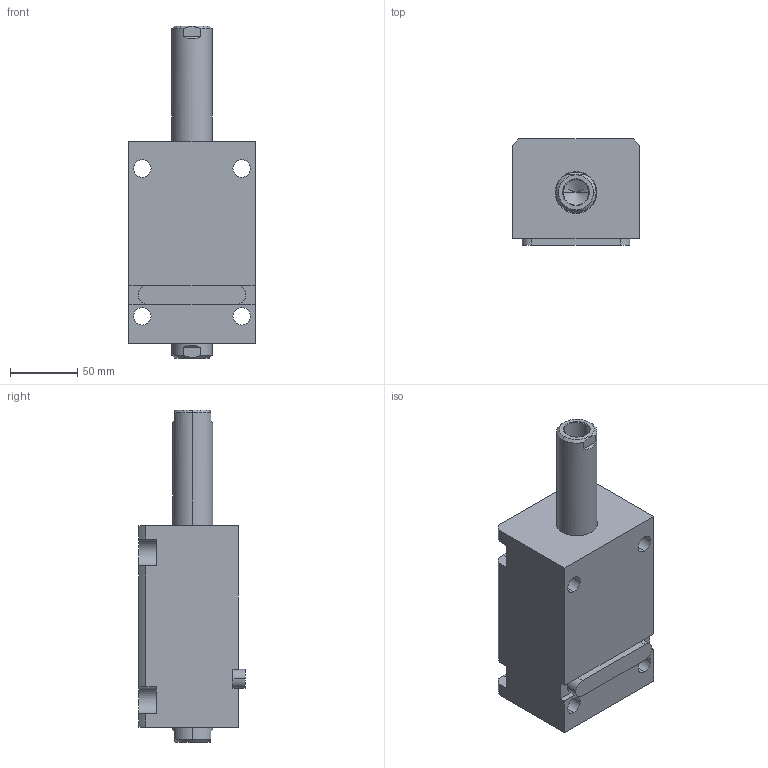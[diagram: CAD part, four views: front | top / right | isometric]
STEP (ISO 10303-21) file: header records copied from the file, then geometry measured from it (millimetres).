
FILE_DESCRIPTION (( 'STEP AP203' ), '1' );
FILE_NAME ('CHTB-LW50-75N.STEP', '2018-05-18T08:52:19', ( '' ), ( '' ), 'SwSTEP 2.0', 'SolidWorks 2015', '' );
FILE_SCHEMA (( 'CONFIG_CONTROL_DESIGN' ));
Length unit declared in the file: millimetre
Products named in the file (4): 活塞杆LW50-75N; 掛极LW50-75N; CHTB-LW50-75N; CHTM-SDMA50QG
Assembly tree (3 placements, depth 2):
  CHTB-LW50-75N
    掛极LW50-75N
    活塞杆LW50-75N
    CHTM-SDMA50QG
Bounding box: 94 x 79 x 247 mm (x, y, z)
Volume: 943944.9 mm3; surface area: 144871.4 mm2
Topology: 3 solids, 3 shells, 221 faces, 588 edges, 385 vertices
Faces by surface type: cylinder 102, plane 58, cone 31, torus 16, bspline 14
Entity records: 11831 total; most frequent: CARTESIAN_POINT 6126, ORIENTED_EDGE 1160, DIRECTION 1056, EDGE_CURVE 580, AXIS2_PLACEMENT_3D 416, VERTEX_POINT 385, EDGE_LOOP 257, LINE 224
